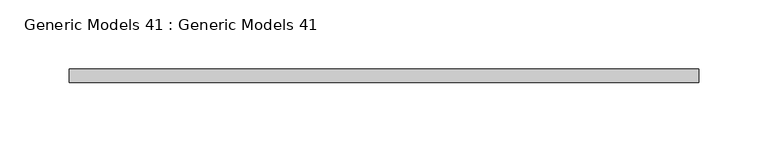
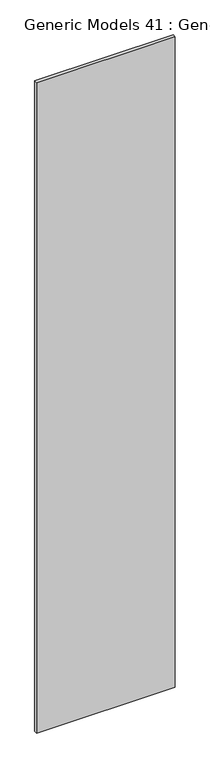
"""IFC4 building model written with IfcOpenShell, lengths in millimetres: proxy geometry, Generic Models 41 : Generic Models 41."""

from ifc_helpers import new_model, si_unit, frame, origin, place, context, project, spatial, polyline, outline, extrude, source, transform, mapped, element, save


def generic_models_41_generic_models_41_221d64d7(model_context):
    return source(origin(), model_context, "Body", "SweptSolid", [
        extrude(outline(polyline([(96254.9879055, 20025.7373587), (96711.0847603, 20025.7373587), (96711.0847603, 20015.7813206), (96254.9879055, 20015.7813206), (96254.9879055, 20025.7373587)])), frame((0.0, 0.0, 30.0), z_axis=(0.0, 0.0, 1.0), x_axis=(1.0, 0.0, 0.0)), (0.0, 0.0, 1.0), 2260.0),
    ])


if __name__ == "__main__":
    model = new_model("IFC4")
    model_context = context("Model", 3, world=origin())
    ifc_project = project(units=[si_unit("LENGTHUNIT", "METRE", prefix="MILLI")], contexts=[model_context])
    site = spatial("IfcSite", under=ifc_project)
    building = spatial("IfcBuilding", under=site)
    placement = place(None, origin())
    generic_models_41_generic_models_41_shape = generic_models_41_generic_models_41_221d64d7(model_context)
    element("IfcBuildingElementProxy", 1, Name="Generic Models 41 : Generic Models 41", ObjectType="Generic Models 41 : Generic Models 41", at=placement, inside=building, context=model_context, shape_type="MappedRepresentation", body=[
        mapped(generic_models_41_generic_models_41_shape, transform((0.0, 0.0, 0.0), x_axis=(1.0, 0.0, 0.0), y_axis=(0.0, 1.0, 0.0), z_axis=(0.0, 0.0, 1.0))),
    ])
    save(model, "model.ifc")
